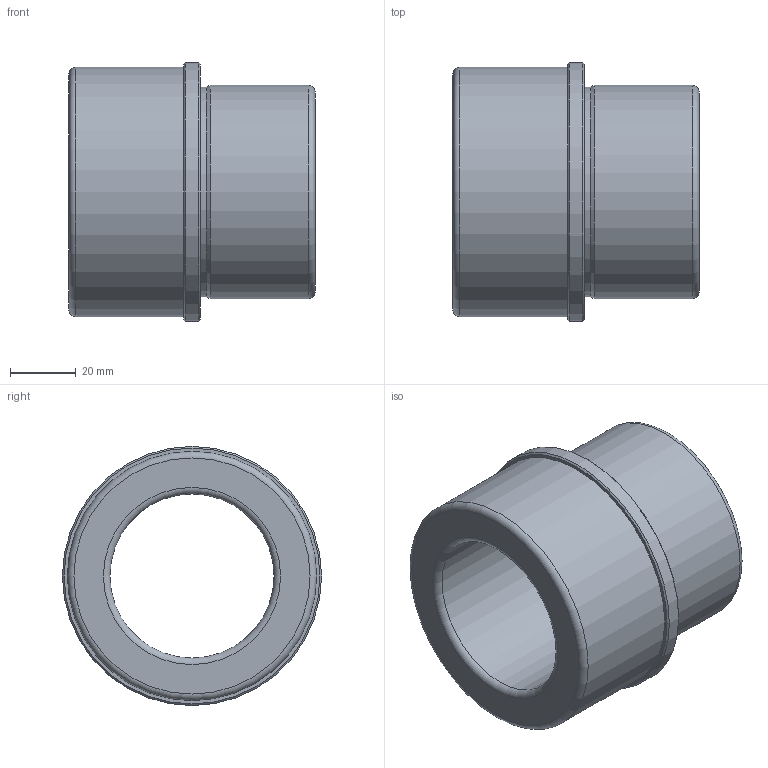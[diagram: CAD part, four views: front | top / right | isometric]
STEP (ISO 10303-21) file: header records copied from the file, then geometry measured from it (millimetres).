
FILE_DESCRIPTION(/* description */ ('Impex Ready, www.impex-ready.pl'),/* implementation_level */ '2;1');
FILE_NAME(/* name */ 'C:\Users\VIKKY\Nextcloud\SM\projekt 10 - części na stronę internetową\Pliki_3D_new\298 Tuleje BEG\298_Tuleje_BEG_STEP\BEG50M.ipt.step',/* time_stamp */ '2021-12-17T14:34:25+01:00',/* author */ ('SM'),/* organization */ (''),/* preprocessor_version */ 'ST-DEVELOPER v18.1',/* originating_system */ 'Autodesk Inventor 2021',/* authorisation */ '');
FILE_SCHEMA (('AUTOMOTIVE_DESIGN { 1 0 10303 214 3 1 1 }'));
Length unit declared in the file: millimetre
Products named in the file (1): BEG50M
Bounding box: 75 x 79 x 79 mm (x, y, z)
Volume: 151197.9 mm3; surface area: 33723.4 mm2
Topology: 1 solids, 1 shells, 16 faces, 32 edges, 20 vertices
Faces by surface type: cylinder 5, torus 4, plane 4, cone 3
Full cylindrical faces by diameter (mm): 50 x1, 64 x1, 65 x1, 76 x1, 79 x1
Entity records: 507 total; most frequent: DIRECTION 90, CARTESIAN_POINT 69, ORIENTED_EDGE 64, AXIS2_PLACEMENT_3D 41, EDGE_CURVE 32, CIRCLE 24, EDGE_LOOP 20, VERTEX_POINT 20
